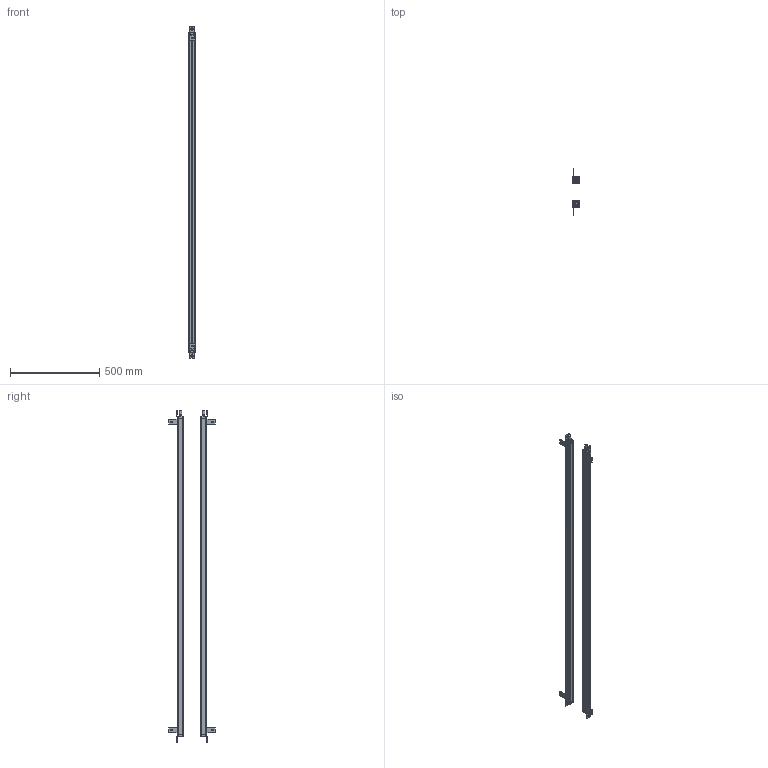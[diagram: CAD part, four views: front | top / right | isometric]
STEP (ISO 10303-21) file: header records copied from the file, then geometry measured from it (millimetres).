
FILE_DESCRIPTION(/* description */ (''),/* implementation_level */ '2;1');
FILE_NAME(/* name */ '4440_35X35.stp',/* time_stamp */ '2023-09-18T16:03:04+08:00',/* author */ (''),/* organization */ (''),/* preprocessor_version */ 'ST-DEVELOPER v16.7',/* originating_system */ 'SIEMENS PLM Software NX 12.0',/* authorisation */ '');
FILE_SCHEMA (('AP203_CONFIGURATION_CONTROLLED_3D_DESIGN_OF_MECHANICAL_PARTS_AND_ASSEMBLIES_MIM_LF { 1 0 10303 403 2 1 2}'));
Length unit declared in the file: millimetre
Products named in the file (1): 4440_35X35_stp
Bounding box: 35.41 x 258.01 x 1861.6 mm (x, y, z)
Volume: 1718144.5 mm3; surface area: 1285693.9 mm2
Topology: 28 solids, 28 shells, 1182 faces, 3360 edges, 2260 vertices
Faces by surface type: plane 658, cylinder 464, cone 60
Full cylindrical faces by diameter (mm): 3.2 x8, 6 x24, 13 x2, 14.4 x2, 15 x2
Entity records: 39055 total; most frequent: DIRECTION 6832, CARTESIAN_POINT 6745, ORIENTED_EDGE 6612, EDGE_CURVE 3306, AXIS2_PLACEMENT_3D 2347, VERTEX_POINT 2244, LINE 2138, VECTOR 2138
